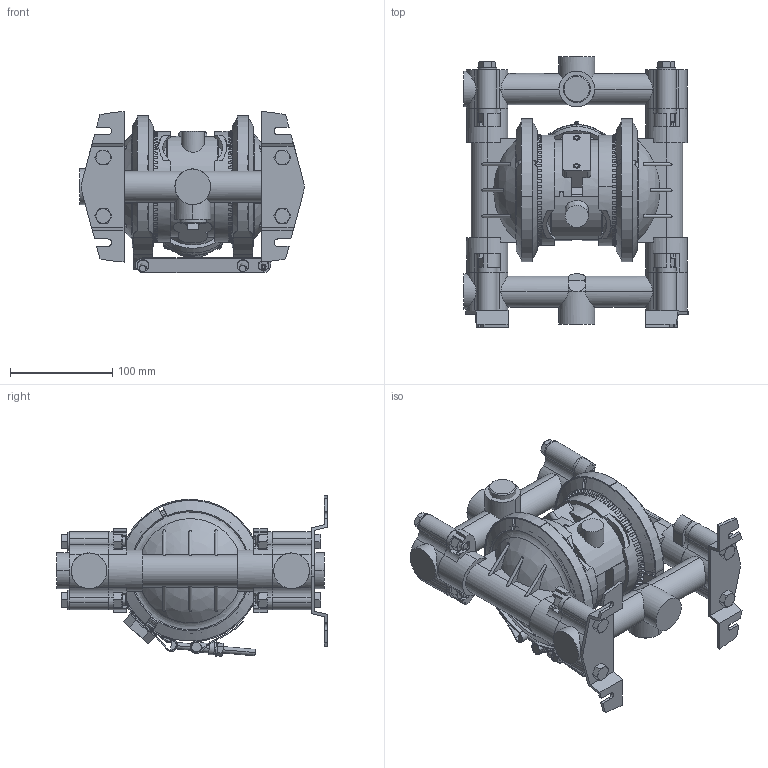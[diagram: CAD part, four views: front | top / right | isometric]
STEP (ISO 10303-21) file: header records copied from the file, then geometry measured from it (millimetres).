
FILE_DESCRIPTION((''),'2;1');
FILE_NAME('241408-EN-L_PRT','2019-12-31T16:33:47',('qusrh3'),(''),'CREO PARAMETRIC BY PTC INC, 2019030','CREO PARAMETRIC BY PTC INC, 2019030','');
FILE_SCHEMA(('CONFIG_CONTROL_DESIGN'));
Products named in the file (1): 241408-EN-L_PRT
Bounding box: 219.43 x 264.8 x 157.53 mm (x, y, z)
Surface area: 458645.2 mm2 (no closed solid volume)
Topology: 0 solids, 121 shells, 2174 faces, 6328 edges, 4215 vertices
Faces by surface type: plane 868, torus 458, cylinder 441, cone 346, bspline 36, sphere 24, extrusion 1
Entity records: 80778 total; most frequent: CARTESIAN_POINT 25596, ORIENTED_EDGE 11750, DIRECTION 11121, EDGE_CURVE 6328, AXIS2_PLACEMENT_3D 4438, VERTEX_POINT 4215, CIRCLE 2301, VECTOR 2245
